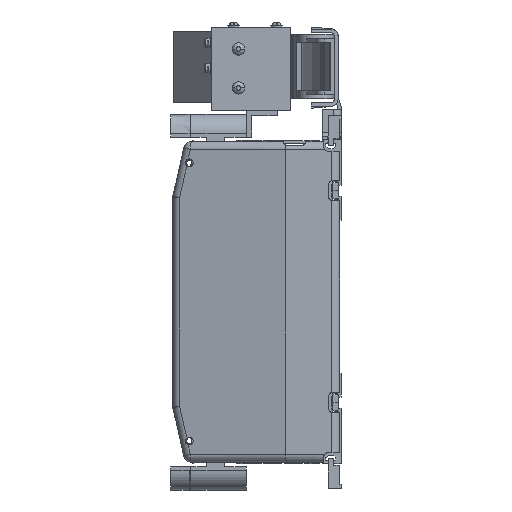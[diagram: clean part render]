
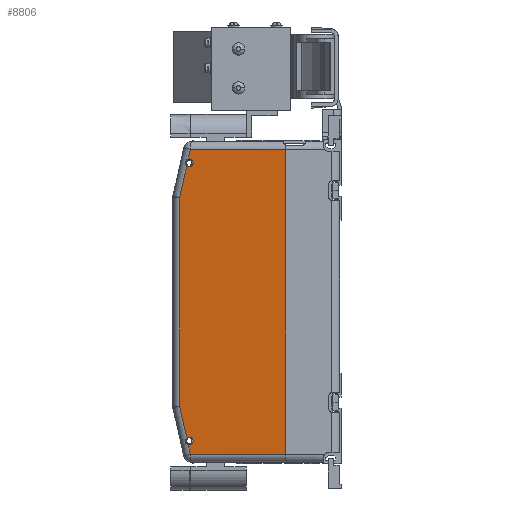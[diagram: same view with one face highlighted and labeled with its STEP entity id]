
A CAD part, left-side view. The second image highlights one B-rep face of the part: STEP entity #8806.
In plain terms, the highlighted planar face has unit normal (-0.985, 0.172, 0).
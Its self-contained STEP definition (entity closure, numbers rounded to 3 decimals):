
#7828=DIRECTION('',(0.,0.,1.));
#7829=VECTOR('',#7828,188.146);
#7830=CARTESIAN_POINT('',(0.,33.317,-94.073));
#7831=LINE('',#7830,#7829);
#7898=DIRECTION('',(0.172,0.985,0.));
#7899=VECTOR('',#7898,59.786);
#7900=CARTESIAN_POINT('',(0.,33.317,-94.073));
#7901=LINE('',#7900,#7899);
#7902=DIRECTION('',(0.038,0.219,0.975));
#7903=VECTOR('',#7902,6.036);
#7904=CARTESIAN_POINT('',(10.31,92.207,-94.073));
#7905=LINE('',#7904,#7903);
#7906=DIRECTION('',(0.038,0.219,0.975));
#7907=VECTOR('',#7906,20.124);
#7908=CARTESIAN_POINT('',(10.705,94.462,-84.016));
#7909=LINE('',#7908,#7907);
#7910=DIRECTION('',(-0.038,-0.219,0.975));
#7911=VECTOR('',#7910,20.101);
#7912=CARTESIAN_POINT('',(11.475,98.862,64.394));
#7913=LINE('',#7912,#7911);
#7914=DIRECTION('',(-0.038,-0.219,0.975));
#7915=VECTOR('',#7914,6.064);
#7916=CARTESIAN_POINT('',(10.542,93.533,88.16));
#7917=LINE('',#7916,#7915);
#7918=DIRECTION('',(-0.172,-0.985,0.));
#7919=VECTOR('',#7918,59.786);
#7920=CARTESIAN_POINT('',(10.31,92.207,94.073));
#7921=LINE('',#7920,#7919);
#8236=CARTESIAN_POINT('',(10.436,92.93,83.437));
#8237=CARTESIAN_POINT('',(10.387,92.647,83.437));
#8238=CARTESIAN_POINT('',(10.28,92.036,83.54));
#8239=CARTESIAN_POINT('',(10.13,91.182,84.088));
#8240=CARTESIAN_POINT('',(10.034,90.633,84.949));
#8241=CARTESIAN_POINT('',(10.007,90.479,85.837));
#8242=CARTESIAN_POINT('',(10.034,90.633,86.725));
#8243=CARTESIAN_POINT('',(10.13,91.182,87.586));
#8244=CARTESIAN_POINT('',(10.28,92.036,88.134));
#8245=CARTESIAN_POINT('',(10.387,92.647,88.237));
#8246=CARTESIAN_POINT('',(10.436,92.93,88.237));
#8252=CARTESIAN_POINT('',(10.436,92.93,88.237));
#8253=CARTESIAN_POINT('',(10.472,93.134,88.237));
#8254=CARTESIAN_POINT('',(10.507,93.335,88.211));
#8255=CARTESIAN_POINT('',(10.542,93.533,88.16));
#8261=CARTESIAN_POINT('',(10.705,94.467,83.994));
#8262=CARTESIAN_POINT('',(10.627,94.021,83.622));
#8263=CARTESIAN_POINT('',(10.538,93.508,83.437));
#8264=CARTESIAN_POINT('',(10.436,92.93,83.437));
#8304=DIRECTION('',(0.,0.,-1.));
#8305=VECTOR('',#8304,128.789);
#8306=CARTESIAN_POINT('',(11.475,98.862,64.394));
#8307=LINE('',#8306,#8305);
#8338=CARTESIAN_POINT('',(10.436,92.93,-83.463));
#8339=CARTESIAN_POINT('',(10.537,93.506,-83.463));
#8340=CARTESIAN_POINT('',(10.627,94.017,-83.646));
#8341=CARTESIAN_POINT('',(10.705,94.462,-84.016));
#8347=CARTESIAN_POINT('',(10.541,93.527,-88.188));
#8348=CARTESIAN_POINT('',(10.507,93.331,-88.238));
#8349=CARTESIAN_POINT('',(10.472,93.132,-88.263));
#8350=CARTESIAN_POINT('',(10.436,92.93,-88.263));
#8352=CARTESIAN_POINT('',(10.436,92.93,-88.263));
#8353=CARTESIAN_POINT('',(10.387,92.647,-88.263));
#8354=CARTESIAN_POINT('',(10.28,92.036,-88.16));
#8355=CARTESIAN_POINT('',(10.13,91.182,-87.612));
#8356=CARTESIAN_POINT('',(10.034,90.633,-86.751));
#8357=CARTESIAN_POINT('',(10.007,90.479,-85.863));
#8358=CARTESIAN_POINT('',(10.034,90.633,-84.975));
#8359=CARTESIAN_POINT('',(10.13,91.182,-84.114));
#8360=CARTESIAN_POINT('',(10.28,92.036,-83.566));
#8361=CARTESIAN_POINT('',(10.387,92.647,-83.463));
#8362=CARTESIAN_POINT('',(10.436,92.93,-83.463));
#8566=VERTEX_POINT('',#8236);
#8567=VERTEX_POINT('',#8246);
#8568=VERTEX_POINT('',#8352);
#8569=VERTEX_POINT('',#8362);
#8575=CARTESIAN_POINT('',(0.,33.317,94.073));
#8576=VERTEX_POINT('',#8575);
#8583=CARTESIAN_POINT('',(0.,33.317,-94.073));
#8584=VERTEX_POINT('',#8583);
#8606=CARTESIAN_POINT('',(11.475,98.862,64.394));
#8607=VERTEX_POINT('',#8606);
#8608=CARTESIAN_POINT('',(10.705,94.467,83.994));
#8609=VERTEX_POINT('',#8608);
#8610=CARTESIAN_POINT('',(10.542,93.533,88.16));
#8611=CARTESIAN_POINT('',(10.31,92.207,94.073));
#8612=VERTEX_POINT('',#8610);
#8613=VERTEX_POINT('',#8611);
#8618=CARTESIAN_POINT('',(11.475,98.862,-64.394));
#8620=VERTEX_POINT('',#8618);
#8624=CARTESIAN_POINT('',(10.705,94.462,-84.016));
#8625=VERTEX_POINT('',#8624);
#8626=CARTESIAN_POINT('',(10.31,92.207,-94.073));
#8627=CARTESIAN_POINT('',(10.541,93.527,-88.188));
#8628=VERTEX_POINT('',#8626);
#8629=VERTEX_POINT('',#8627);
#8773=CARTESIAN_POINT('',(0.,33.317,100.));
#8774=DIRECTION('',(0.985,-0.172,0.));
#8775=DIRECTION('',(0.172,0.985,0.));
#8776=AXIS2_PLACEMENT_3D('',#8773,#8774,#8775);
#8777=PLANE('',#8776);
#8778=ORIENTED_EDGE('',*,*,#8669,.F.);
#8780=ORIENTED_EDGE('',*,*,#8779,.T.);
#8782=ORIENTED_EDGE('',*,*,#8781,.T.);
#8784=ORIENTED_EDGE('',*,*,#8783,.T.);
#8786=ORIENTED_EDGE('',*,*,#8785,.T.);
#8788=ORIENTED_EDGE('',*,*,#8787,.T.);
#8790=ORIENTED_EDGE('',*,*,#8789,.T.);
#8792=ORIENTED_EDGE('',*,*,#8791,.F.);
#8794=ORIENTED_EDGE('',*,*,#8793,.T.);
#8796=ORIENTED_EDGE('',*,*,#8795,.T.);
#8798=ORIENTED_EDGE('',*,*,#8797,.T.);
#8800=ORIENTED_EDGE('',*,*,#8799,.T.);
#8802=ORIENTED_EDGE('',*,*,#8801,.T.);
#8803=ORIENTED_EDGE('',*,*,#8766,.T.);
#8804=EDGE_LOOP('',(#8778,#8780,#8782,#8784,#8786,#8788,#8790,#8792,#8794,#8796,
#8798,#8800,#8802,#8803));
#8805=FACE_OUTER_BOUND('',#8804,.F.);
#8806=ADVANCED_FACE('',(#8805),#8777,.F.);
#8247=B_SPLINE_CURVE_WITH_KNOTS('',3,(#8236,#8237,#8238,#8239,#8240,#8241,#8242,
#8243,#8244,#8245,#8246),.UNSPECIFIED.,.F.,.F.,(4,1,1,1,1,1,1,1,4),(0.,
0.125,0.25,0.375,0.5,0.625,0.75,0.875,1.),.UNSPECIFIED.);
#8256=B_SPLINE_CURVE_WITH_KNOTS('',3,(#8252,#8253,#8254,#8255),.UNSPECIFIED.,
.F.,.F.,(4,4),(0.,1.),.UNSPECIFIED.);
#8265=B_SPLINE_CURVE_WITH_KNOTS('',3,(#8261,#8262,#8263,#8264),.UNSPECIFIED.,
.F.,.F.,(4,4),(0.,1.),.UNSPECIFIED.);
#8342=B_SPLINE_CURVE_WITH_KNOTS('',3,(#8338,#8339,#8340,#8341),.UNSPECIFIED.,
.F.,.F.,(4,4),(0.,1.),.UNSPECIFIED.);
#8351=B_SPLINE_CURVE_WITH_KNOTS('',3,(#8347,#8348,#8349,#8350),.UNSPECIFIED.,
.F.,.F.,(4,4),(0.,1.),.UNSPECIFIED.);
#8363=B_SPLINE_CURVE_WITH_KNOTS('',3,(#8352,#8353,#8354,#8355,#8356,#8357,#8358,
#8359,#8360,#8361,#8362),.UNSPECIFIED.,.F.,.F.,(4,1,1,1,1,1,1,1,4),(0.,
0.125,0.25,0.375,0.5,0.625,0.75,0.875,1.),.UNSPECIFIED.);
#8669=EDGE_CURVE('',#8584,#8576,#7831,.T.);
#8766=EDGE_CURVE('',#8613,#8576,#7921,.T.);
#8779=EDGE_CURVE('',#8584,#8628,#7901,.T.);
#8781=EDGE_CURVE('',#8628,#8629,#7905,.T.);
#8783=EDGE_CURVE('',#8629,#8568,#8351,.T.);
#8785=EDGE_CURVE('',#8568,#8569,#8363,.T.);
#8787=EDGE_CURVE('',#8569,#8625,#8342,.T.);
#8789=EDGE_CURVE('',#8625,#8620,#7909,.T.);
#8791=EDGE_CURVE('',#8607,#8620,#8307,.T.);
#8793=EDGE_CURVE('',#8607,#8609,#7913,.T.);
#8795=EDGE_CURVE('',#8609,#8566,#8265,.T.);
#8797=EDGE_CURVE('',#8566,#8567,#8247,.T.);
#8799=EDGE_CURVE('',#8567,#8612,#8256,.T.);
#8801=EDGE_CURVE('',#8612,#8613,#7917,.T.);
